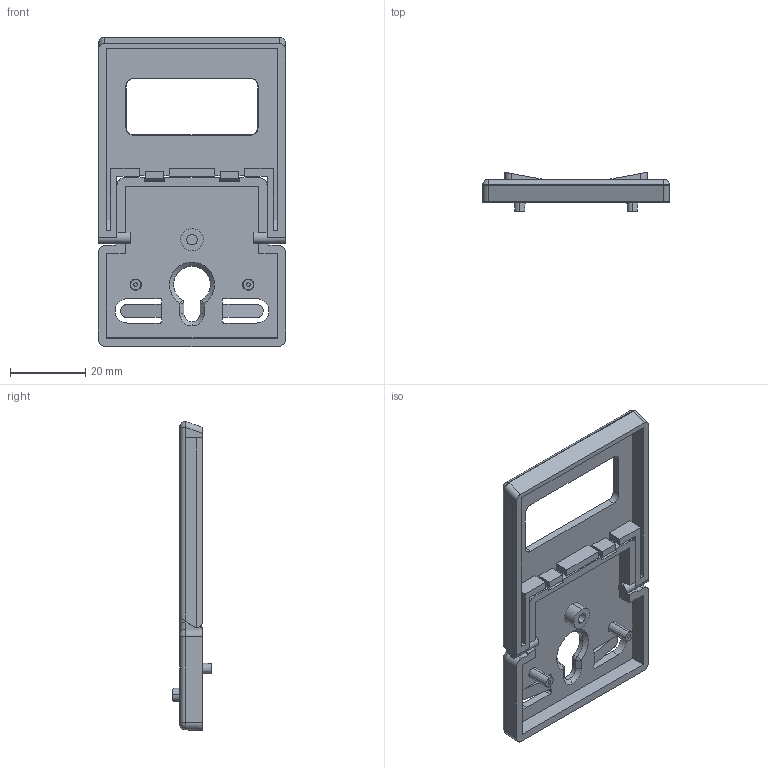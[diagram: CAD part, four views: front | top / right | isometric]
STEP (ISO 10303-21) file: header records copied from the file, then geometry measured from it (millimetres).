
FILE_DESCRIPTION (( 'STEP AP203' ), '1' );
FILE_NAME ('A-57.STEP', '2023-09-21T06:57:27', ( '' ), ( '' ), 'SwSTEP 2.0', 'SolidWorks 2021', '' );
FILE_SCHEMA (( 'CONFIG_CONTROL_DESIGN' ));
Length unit declared in the file: millimetre
Products named in the file (3): A-57; alt; ust
Assembly tree (2 placements, depth 2):
  A-57
    ust
    alt
Bounding box: 50 x 10.5 x 82.4 mm (x, y, z)
Volume: 10270.9 mm3; surface area: 11268 mm2
Topology: 2 solids, 2 shells, 211 faces, 573 edges, 370 vertices
Faces by surface type: plane 124, cylinder 62, bspline 13, cone 10, sphere 2
Entity records: 7084 total; most frequent: CARTESIAN_POINT 1720, ORIENTED_EDGE 1142, DIRECTION 962, EDGE_CURVE 571, VECTOR 386, LINE 386, VERTEX_POINT 370, AXIS2_PLACEMENT_3D 288
